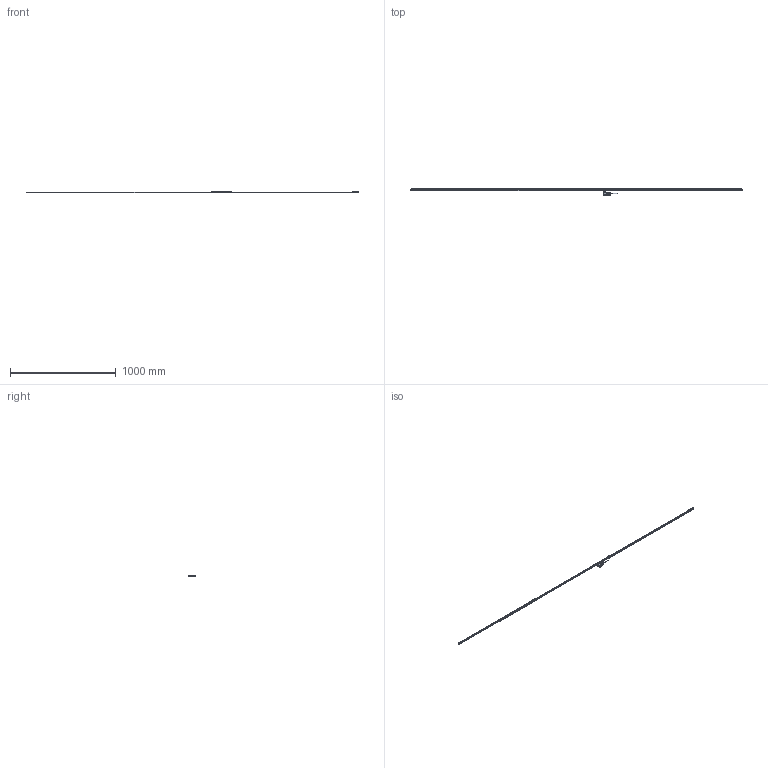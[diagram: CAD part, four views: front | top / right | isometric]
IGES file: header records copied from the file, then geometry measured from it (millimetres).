
Start section: Elysium IGES Interface
Global section: file name: 79H\\Utsu119s\kiyo_cad\data\3D\ST46EZA\HP掲載用_201803\ST46EZA-D\ST46EZA-3000D.igs; native system: Creo Elements/Direct Modeling 18.1B  29-Sep-2012; preprocessor: Creo Element/Direct IGES_3D V2.2; author: Unknown; organization: Unknown; date: 20180322.180327; units: millimetre
Bounding box: 3142 x 74.86 x 18.68 mm (x, y, z)
Volume: 263754.7 mm3; surface area: 176747.1 mm2
Topology: 3 solids, 5 shells, 2845 faces, 7626 edges, 4977 vertices
Faces by surface type: bspline 2845
